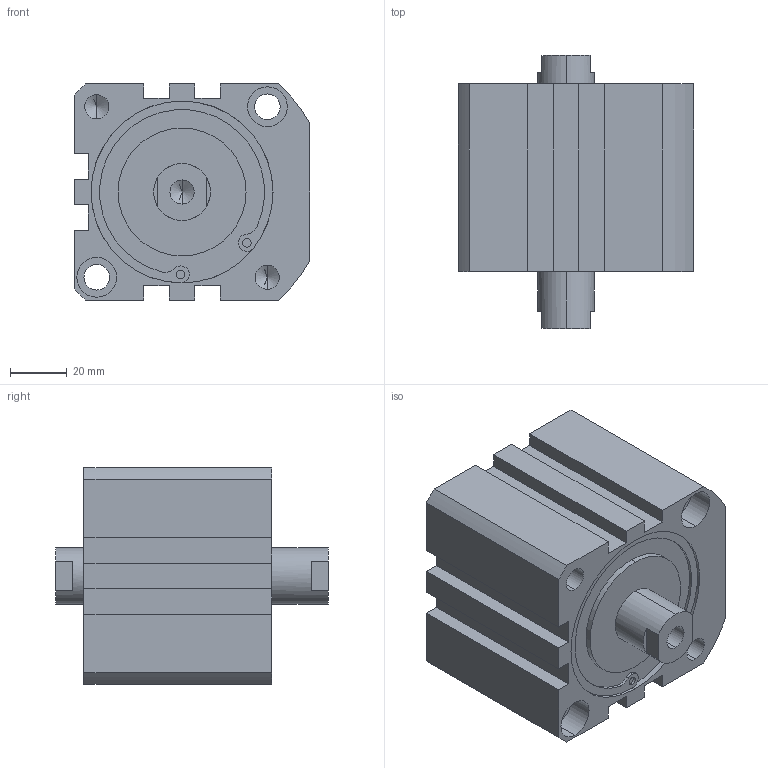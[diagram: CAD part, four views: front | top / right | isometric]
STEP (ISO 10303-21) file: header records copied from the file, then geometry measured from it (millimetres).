
FILE_DESCRIPTION (( 'STEP AP203' ), '1' );
FILE_NAME ('XG#7-63-10.STEP', '2016-05-24T02:00:20', ( '' ), ( '' ), 'SwSTEP 2.0', 'SolidWorks 2014', '' );
FILE_SCHEMA (( 'CONFIG_CONTROL_DESIGN' ));
Length unit declared in the file: millimetre
Products named in the file (1): XG#7-63-10
Bounding box: 83 x 96 x 76 mm (x, y, z)
Volume: 368447.7 mm3; surface area: 47808 mm2
Topology: 1 solids, 1 shells, 145 faces, 365 edges, 230 vertices
Faces by surface type: cylinder 69, plane 56, cone 20
Entity records: 4362 total; most frequent: DIRECTION 799, CARTESIAN_POINT 725, ORIENTED_EDGE 698, EDGE_CURVE 349, AXIS2_PLACEMENT_3D 304, VERTEX_POINT 230, LINE 191, VECTOR 191
